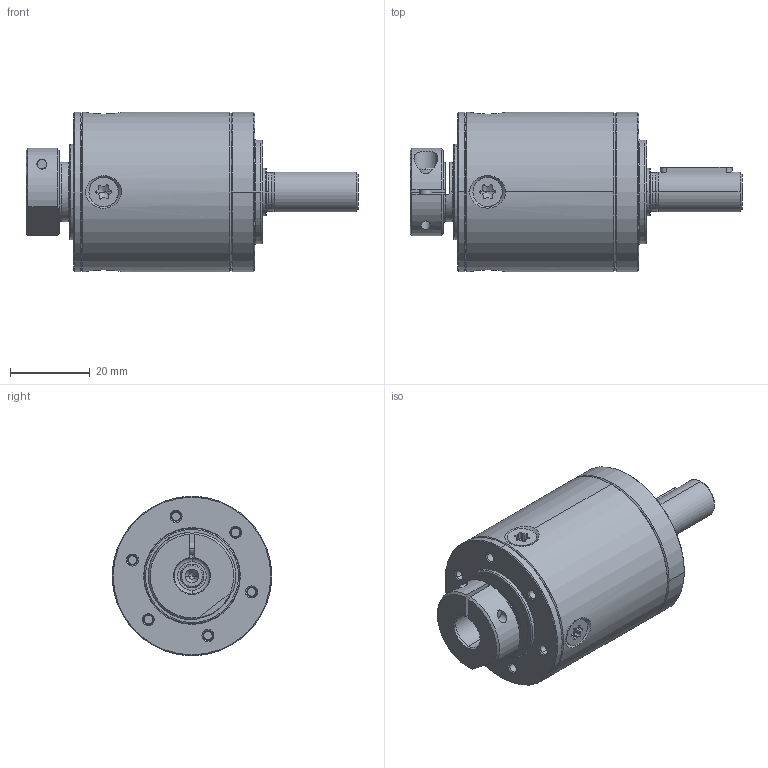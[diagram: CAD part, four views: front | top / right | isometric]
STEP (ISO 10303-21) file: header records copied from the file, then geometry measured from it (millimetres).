
FILE_DESCRIPTION (( 'STEP AP214' ), '1' );
FILE_NAME ('RPS040 1-Stufig.STEP', '2023-07-25T11:05:25', ( '' ), ( '' ), 'SwSTEP 2.0', 'SolidWorks 2021', '' );
FILE_SCHEMA (( 'AUTOMOTIVE_DESIGN' ));
Length unit declared in the file: millimetre
Products named in the file (1): RPS040 1-Stufig
Bounding box: 83.4 x 40 x 40 mm (x, y, z)
Volume: 61483.5 mm3; surface area: 13533.6 mm2
Topology: 1 solids, 8 shells, 493 faces, 1269 edges, 794 vertices
Faces by surface type: cylinder 189, cone 131, plane 117, torus 56
Entity records: 21483 total; most frequent: CARTESIAN_POINT 4213, DIRECTION 2609, ORIENTED_EDGE 2494, EDGE_CURVE 1247, AXIS2_PLACEMENT_3D 1078, VERTEX_POINT 794, CIRCLE 584, EDGE_LOOP 547
